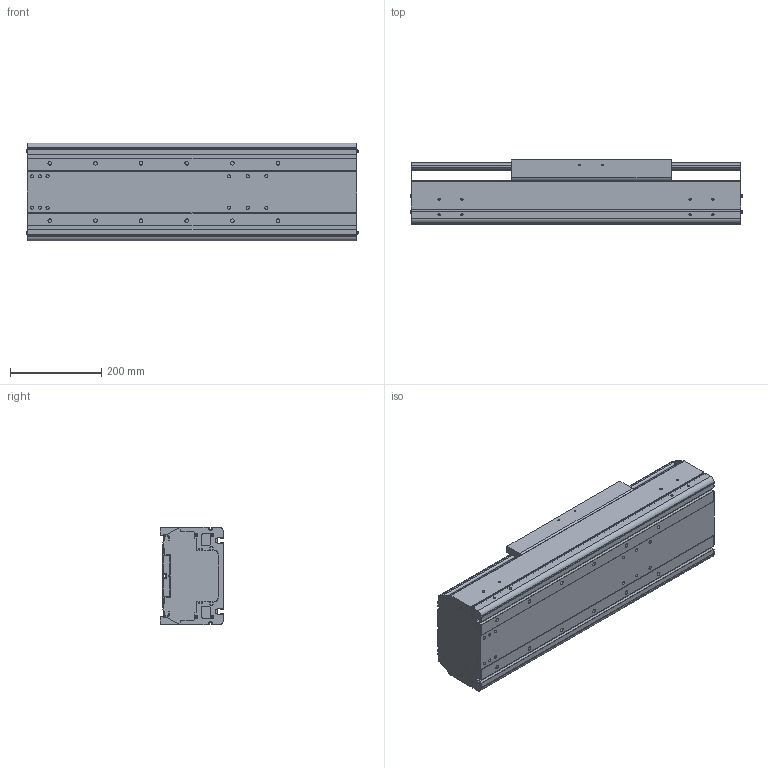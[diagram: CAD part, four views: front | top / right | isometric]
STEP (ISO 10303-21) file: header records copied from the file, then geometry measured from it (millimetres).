
FILE_DESCRIPTION((''),'2;1');
FILE_NAME('BE60J-ST-L_B-15_IGS_PRT','2017-06-18T',(' '),(''),'PRO/ENGINEER BY PARAMETRIC TECHNOLOGY CORPORATION, 2015030','PRO/ENGINEER BY PARAMETRIC TECHNOLOGY CORPORATION, 2015030','');
FILE_SCHEMA(('CONFIG_CONTROL_DESIGN'));
Length unit declared in the file: millimetre
Products named in the file (1): BE60J-ST-L_B-15_IGS_PRT
Bounding box: 727.4 x 140 x 214 mm (x, y, z)
Volume: 6598330.3 mm3; surface area: 1723832.3 mm2
Topology: 2 solids, 32 shells, 1089 faces, 2912 edges, 1872 vertices
Faces by surface type: plane 513, cylinder 468, cone 60, sphere 24, torus 24
Entity records: 34357 total; most frequent: CARTESIAN_POINT 6500, DIRECTION 5946, ORIENTED_EDGE 5600, EDGE_CURVE 2856, AXIS2_PLACEMENT_3D 2118, VERTEX_POINT 1872, VECTOR 1710, LINE 1710
